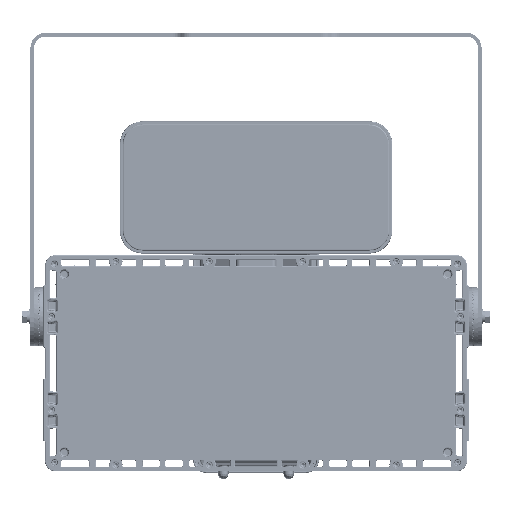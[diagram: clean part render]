
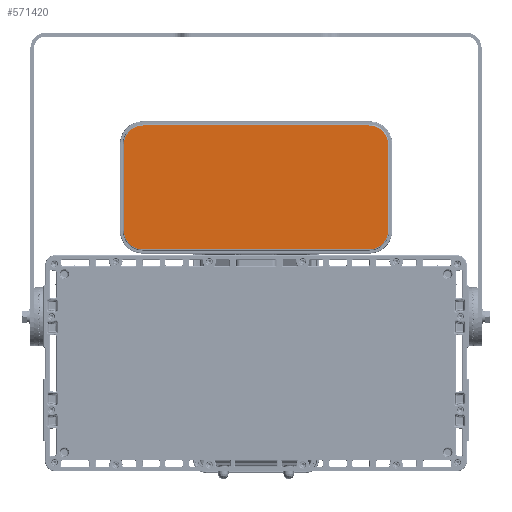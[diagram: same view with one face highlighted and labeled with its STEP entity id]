
A CAD part, front view. The second image highlights one B-rep face of the part: STEP entity #571420.
In plain terms, the highlighted planar face has unit normal (0, -1, 0).
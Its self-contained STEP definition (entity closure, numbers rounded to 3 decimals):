
#213833=DIRECTION('',(-1.,0.,0.));
#213834=VECTOR('',#213833,9.68);
#213835=CARTESIAN_POINT('',(4.84,-0.917,10.178));
#213836=LINE('',#213835,#213834);
#213837=CARTESIAN_POINT('',(4.84,-0.917,9.365));
#213838=DIRECTION('',(0.,-1.,0.));
#213839=DIRECTION('',(1.,0.,0.));
#213840=AXIS2_PLACEMENT_3D('',#213837,#213838,#213839);
#213842=DIRECTION('',(0.,0.,1.));
#213843=VECTOR('',#213842,3.68);
#213844=CARTESIAN_POINT('',(5.653,-0.917,5.685));
#213845=LINE('',#213844,#213843);
#213846=CARTESIAN_POINT('',(4.84,-0.917,5.685));
#213847=DIRECTION('',(0.,-1.,0.));
#213848=DIRECTION('',(0.,0.,-1.));
#213849=AXIS2_PLACEMENT_3D('',#213846,#213847,#213848);
#213851=DIRECTION('',(1.,0.,0.));
#213852=VECTOR('',#213851,9.68);
#213853=CARTESIAN_POINT('',(-4.84,-0.917,4.872));
#213854=LINE('',#213853,#213852);
#213855=CARTESIAN_POINT('',(-4.84,-0.917,5.685));
#213856=DIRECTION('',(0.,-1.,0.));
#213857=DIRECTION('',(-1.,0.,0.));
#213858=AXIS2_PLACEMENT_3D('',#213855,#213856,#213857);
#213860=DIRECTION('',(0.,0.,-1.));
#213861=VECTOR('',#213860,3.68);
#213862=CARTESIAN_POINT('',(-5.653,-0.917,9.365));
#213863=LINE('',#213862,#213861);
#213864=CARTESIAN_POINT('',(-4.84,-0.917,9.365));
#213865=DIRECTION('',(0.,-1.,0.));
#213866=DIRECTION('',(0.,0.,1.));
#213867=AXIS2_PLACEMENT_3D('',#213864,#213865,#213866);
#289894=CARTESIAN_POINT('',(4.84,-0.917,10.178));
#289895=CARTESIAN_POINT('',(-4.84,-0.917,10.178));
#289896=VERTEX_POINT('',#289894);
#289897=VERTEX_POINT('',#289895);
#289902=CARTESIAN_POINT('',(-5.653,-0.917,9.365));
#289903=VERTEX_POINT('',#289902);
#289906=CARTESIAN_POINT('',(-5.653,-0.917,5.685));
#289907=VERTEX_POINT('',#289906);
#289910=CARTESIAN_POINT('',(-4.84,-0.917,4.872));
#289911=VERTEX_POINT('',#289910);
#289914=CARTESIAN_POINT('',(4.84,-0.917,4.872));
#289915=VERTEX_POINT('',#289914);
#289918=CARTESIAN_POINT('',(5.653,-0.917,5.685));
#289919=VERTEX_POINT('',#289918);
#289922=CARTESIAN_POINT('',(5.653,-0.917,9.365));
#289923=VERTEX_POINT('',#289922);
#571398=CARTESIAN_POINT('',(0.,-0.917,7.525));
#571399=DIRECTION('',(0.,-1.,0.));
#571400=DIRECTION('',(-1.,0.,0.));
#571401=AXIS2_PLACEMENT_3D('',#571398,#571399,#571400);
#571402=PLANE('',#571401);
#571404=ORIENTED_EDGE('',*,*,#571403,.F.);
#571405=ORIENTED_EDGE('',*,*,#571388,.F.);
#571407=ORIENTED_EDGE('',*,*,#571406,.F.);
#571409=ORIENTED_EDGE('',*,*,#571408,.F.);
#571411=ORIENTED_EDGE('',*,*,#571410,.F.);
#571413=ORIENTED_EDGE('',*,*,#571412,.F.);
#571415=ORIENTED_EDGE('',*,*,#571414,.F.);
#571417=ORIENTED_EDGE('',*,*,#571416,.F.);
#571418=EDGE_LOOP('',(#571404,#571405,#571407,#571409,#571411,#571413,#571415,
#571417));
#571419=FACE_OUTER_BOUND('',#571418,.F.);
#571420=ADVANCED_FACE('',(#571419),#571402,.T.);
#213841=CIRCLE('',#213840,0.813);
#213850=CIRCLE('',#213849,0.813);
#213859=CIRCLE('',#213858,0.813);
#213868=CIRCLE('',#213867,0.813);
#571388=EDGE_CURVE('',#289923,#289896,#213841,.T.);
#571403=EDGE_CURVE('',#289896,#289897,#213836,.T.);
#571406=EDGE_CURVE('',#289919,#289923,#213845,.T.);
#571408=EDGE_CURVE('',#289915,#289919,#213850,.T.);
#571410=EDGE_CURVE('',#289911,#289915,#213854,.T.);
#571412=EDGE_CURVE('',#289907,#289911,#213859,.T.);
#571414=EDGE_CURVE('',#289903,#289907,#213863,.T.);
#571416=EDGE_CURVE('',#289897,#289903,#213868,.T.);
